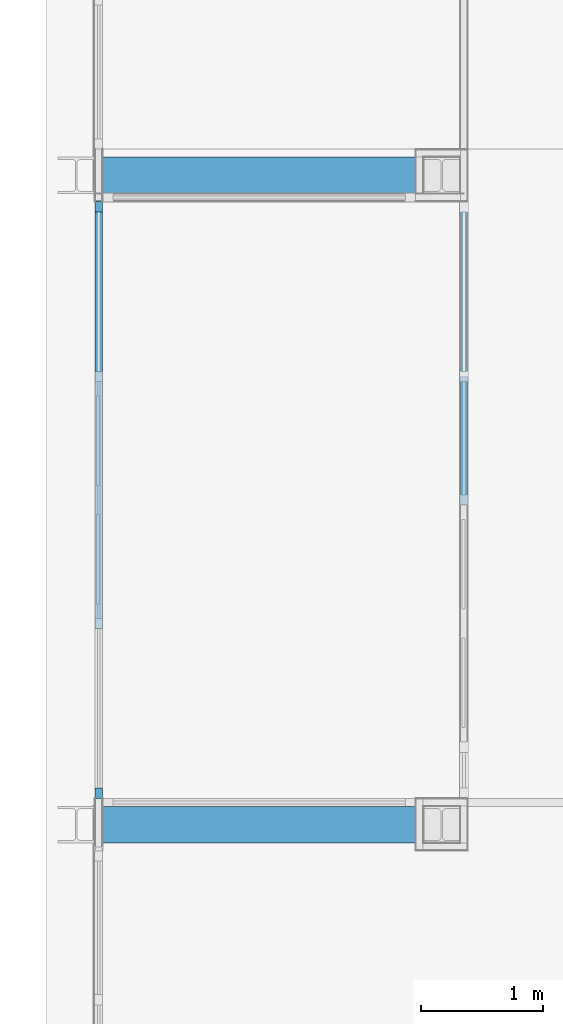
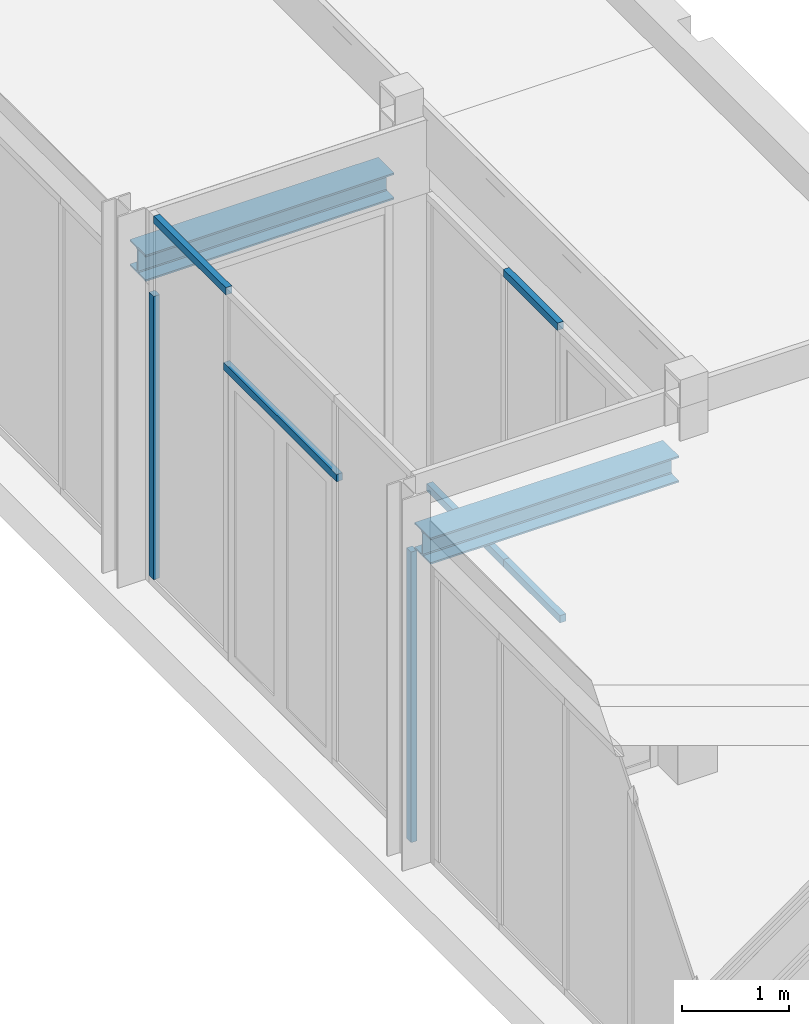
# One storey, part 21 of 99: 7 members, 2 beams, 2 elements without a shape of their own.
"""IFC2X3 building model written with IfcOpenShell, lengths in millimetres."""

from ifc_helpers import new_model, entity, si_unit, converted_unit, derived_unit, money_unit, direction, frame, origin_with_axes, place, context, subcontext, project, spatial, faceted_brep, material, type_object, element, aggregate, save


model = new_model("IFC2X3")

# Units and contexts
model_context = context("Model", 3, precision=0.01, world=origin_with_axes(), true_north=direction((0.0, 1.0)))
body_context = subcontext(model_context, "Body", "Model", "MODEL_VIEW")
ifc_project = project(units=[si_unit("LENGTHUNIT", "METRE", prefix="MILLI"), si_unit("AREAUNIT", "SQUARE_METRE"), si_unit("VOLUMEUNIT", "CUBIC_METRE"), converted_unit("PLANEANGLEUNIT", "DEGREE", entity("IfcPlaneAngleMeasure", 0.0174532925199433), si_unit("PLANEANGLEUNIT", "RADIAN"), dimensions=[0, 0, 0, 0, 0, 0, 0]), money_unit("EUR"), converted_unit("TIMEUNIT", "Year", entity("IfcTimeMeasure", 31557600.0), si_unit("TIMEUNIT", "SECOND"), dimensions=[0, 0, 1, 0, 0, 0, 0]), si_unit("MASSUNIT", "GRAM", prefix="KILO"), si_unit("THERMODYNAMICTEMPERATUREUNIT", "DEGREE_CELSIUS"), si_unit("LUMINOUSINTENSITYUNIT", "LUMEN"), si_unit("ENERGYUNIT", "JOULE", prefix="MEGA"), derived_unit("THERMALCONDUCTANCEUNIT", [(si_unit("POWERUNIT", "WATT"), 1), (si_unit("LENGTHUNIT", "METRE"), -1), (si_unit("THERMODYNAMICTEMPERATUREUNIT", "KELVIN"), -1)]), derived_unit("SPECIFICHEATCAPACITYUNIT", [(si_unit("ENERGYUNIT", "JOULE"), 1), (si_unit("MASSUNIT", "GRAM", prefix="KILO"), -1), (si_unit("THERMODYNAMICTEMPERATUREUNIT", "KELVIN"), -1)]), derived_unit("MASSDENSITYUNIT", [(si_unit("MASSUNIT", "GRAM", prefix="KILO"), 1), (si_unit("VOLUMEUNIT", "CUBIC_METRE"), -1)])], contexts=[model_context])

# Site, building, storey
site_placement = place(None, origin_with_axes())
site = spatial("IfcSite", under=ifc_project, at=site_placement, Name="Site", CompositionType="ELEMENT")
building_placement = place(site_placement, origin_with_axes())
building = spatial("IfcBuilding", under=site, at=building_placement, Name="Naam gebouw", CompositionType="ELEMENT")
storey_placement = place(building_placement, frame((0.0, 0.0, 7650.0), z_axis=(0.0, 0.0, 1.0), x_axis=(1.0, 0.0, 0.0)))
storey = spatial("IfcBuildingStorey", under=building, at=storey_placement, Name="2e verdieping N", CompositionType="ELEMENT", Elevation=7650.0)

# Beams
ifc_material_1 = material(Name="staal geanodiseerd RAL 7024")
beam_type = type_object("IfcBeamType", Name="NLRS_28_SF_LIB_balk HE_generiek_ISR:balk HE_gen_HEB300", PredefinedType="BEAM")
beam_1_placement = place(storey_placement, frame((17128.30000006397, 27955.91242634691, 50.00000000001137), z_axis=(0.0, 0.0, 1.0), x_axis=(0.0, 1.0, 0.0)))
element("IfcBeam", 1, at=beam_1_placement, inside=storey, type_object=beam_type, material=ifc_material_1, Name="NLRS_28_SF_LIB_balk HE_generiek_ISR:balk HE_gen_HEB300", ObjectType="BEAM", context=body_context, shape_type="Brep", body=[
    faceted_brep([(130.9999999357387, 2687.300000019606, -131.0000000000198), (130.9999999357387, 2683.669470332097, -131.0000000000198), (32.50000000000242, 2683.669470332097, -131.0000000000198), (32.50000000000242, 0.0, -130.9999999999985), (149.9999999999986, 0.0, -130.9999999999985), (149.9999999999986, 2687.300000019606, -130.9999999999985), (130.9999999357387, 2683.669470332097, -150.0000000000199), (130.9999999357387, 2687.300000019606, -150.0000000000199), (-32.50000000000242, 2683.669470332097, -131.0000000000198), (-150.0000000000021, 2683.669470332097, -150.0000000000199), (-150.0000000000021, 2683.669470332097, -131.0000000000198), (32.50000000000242, 2687.300000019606, -131.0000000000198), (19.0000000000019, 2687.300000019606, -127.3826859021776), (19.0000000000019, 0.0, -127.3826859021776), (149.9999999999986, 0.0, 131.0000000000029), (149.9999999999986, 0.0, 150.000000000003), (-150.0000000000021, 0.0, 150.000000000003), (-150.0000000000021, 0.0, 131.0000000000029), (-32.50000000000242, 0.0, 131.0000000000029), (-19.0000000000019, 0.0, 127.382685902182), (-9.11731409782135, 0.0, 117.5000000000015), (-5.500000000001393, 0.0, 104.0000000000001), (-5.500000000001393, 0.0, -103.9999999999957), (-9.11731409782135, 0.0, -117.499999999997), (-19.0000000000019, 0.0, -127.3826859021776), (-32.50000000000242, 0.0, -130.9999999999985), (-150.0000000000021, 0.0, -130.9999999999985), (-150.0000000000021, 0.0, -149.9999999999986), (149.9999999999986, 0.0, -149.9999999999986), (9.11731409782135, 0.0, -117.499999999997), (5.49999999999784, 0.0, -103.9999999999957), (5.49999999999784, 0.0, 104.0000000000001), (9.11731409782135, 0.0, 117.5000000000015), (19.0000000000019, 0.0, 127.382685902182), (32.50000000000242, 0.0, 131.0000000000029), (149.9999999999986, 2687.300000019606, -149.9999999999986), (-32.50000000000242, 2687.300000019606, -131.0000000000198), (-19.0000000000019, 2687.300000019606, 127.382685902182), (-32.50000000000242, 2687.300000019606, 130.9999999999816), (32.50000000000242, 2687.300000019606, 130.9999999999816), (19.0000000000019, 2687.300000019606, 127.382685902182), (9.11731409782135, 2687.300000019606, 117.5000000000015), (5.49999999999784, 2687.300000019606, 104.0000000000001), (5.49999999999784, 2687.300000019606, -103.9999999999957), (9.11731409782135, 2687.300000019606, -117.499999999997), (-19.0000000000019, 2687.300000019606, -127.3826859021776), (-9.11731409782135, 2687.300000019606, -117.499999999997), (-5.500000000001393, 2687.300000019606, -103.9999999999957), (-5.500000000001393, 2687.300000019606, 104.0000000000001), (-9.11731409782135, 2687.300000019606, 117.5000000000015), (149.9999999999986, 2687.300000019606, 131.0000000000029), (149.9999999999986, 2687.300000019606, 150.000000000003), (130.9999999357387, 2687.300000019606, 149.9999999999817), (130.9999999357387, 2683.669470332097, 149.9999999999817), (-150.0000000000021, 2683.669470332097, 149.9999999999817), (-150.0000000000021, 2683.669470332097, 130.9999999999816), (-32.50000000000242, 2683.669470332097, 130.9999999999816), (32.50000000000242, 2683.669470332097, 130.9999999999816), (130.9999999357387, 2683.669470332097, 130.9999999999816), (130.9999999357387, 2687.300000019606, 130.9999999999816)], [[[0, 1, 2, 3, 4, 5]], [[6, 1, 0, 7]], [[8, 2, 1, 6, 9, 10]], [[3, 2, 11, 12, 13]], [[14, 15, 16, 17, 18, 19, 20, 21, 22, 23, 24, 25, 26, 27, 28, 4, 3, 13, 29, 30, 31, 32, 33, 34]], [[4, 28, 35, 5]], [[35, 7, 0, 5]], [[9, 6, 7, 35, 28, 27]], [[36, 11, 2, 8]], [[26, 10, 9, 27]], [[25, 8, 10, 26]], [[37, 38, 39, 40, 41, 42, 43, 44, 12, 11, 36, 45, 46, 47, 48, 49]], [[29, 13, 12, 44]], [[15, 14, 50, 51]], [[52, 53, 54, 16, 15, 51]], [[16, 54, 55, 17]], [[17, 55, 56, 18]], [[18, 56, 38, 37, 19]], [[20, 19, 37, 49]], [[21, 20, 49, 48]], [[22, 21, 48, 47]], [[23, 22, 47, 46]], [[24, 23, 46, 45]], [[45, 36, 8, 25, 24]], [[30, 29, 44, 43]], [[31, 30, 43, 42]], [[32, 31, 42, 41]], [[33, 32, 41, 40]], [[40, 39, 57, 34, 33]], [[57, 58, 59, 50, 14, 34]], [[56, 57, 39, 38]], [[50, 59, 52, 51]], [[58, 53, 52, 59]], [[55, 54, 53, 58, 57, 56]]]),
])
beam_2_placement = place(storey_placement, frame((17128.30000003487, 33285.912426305, 50.00000000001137), z_axis=(0.0, 0.0, 1.0), x_axis=(0.0, 1.0, 0.0)))
element("IfcBeam", 2, at=beam_2_placement, inside=storey, type_object=beam_type, material=ifc_material_1, Name="NLRS_28_SF_LIB_balk HE_generiek_ISR:balk HE_gen_HEB300", ObjectType="BEAM", context=body_context, shape_type="Brep", body=[
    faceted_brep([(149.9999999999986, 0.0, -149.9999999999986), (149.9999999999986, 2683.669470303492, -150.0000000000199), (149.9999999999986, 2683.669470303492, -131.0000000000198), (149.9999999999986, 0.0, -130.9999999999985), (-130.9999999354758, 2687.299999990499, -150.0000000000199), (-130.9999999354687, 2683.669470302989, -150.0000000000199), (-149.9999999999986, 0.0, -149.9999999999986), (-149.9999999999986, 2687.299999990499, -149.9999999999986), (-32.50000000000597, 2683.669470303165, -131.0000000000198), (32.49999999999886, 2683.669470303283, -131.0000000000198), (-130.9999999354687, 2683.669470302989, -131.0000000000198), (32.49999999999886, 0.0, -130.9999999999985), (149.9999999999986, 0.0, 131.0000000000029), (149.9999999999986, 0.0, 150.000000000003), (-149.9999999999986, 0.0, 150.000000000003), (-149.9999999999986, 0.0, 131.0000000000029), (-32.50000000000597, 0.0, 131.0000000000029), (-18.99999999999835, 0.0, 127.382685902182), (-9.11731409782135, 0.0, 117.5000000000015), (-5.49999999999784, 0.0, 104.0000000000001), (-5.49999999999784, 0.0, -103.9999999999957), (-9.11731409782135, 0.0, -117.499999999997), (-18.99999999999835, 0.0, -127.3826859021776), (-32.50000000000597, 0.0, -130.9999999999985), (-149.9999999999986, 0.0, -130.9999999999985), (18.99999999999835, 0.0, -127.3826859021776), (9.11731409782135, 0.0, -117.499999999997), (5.49999999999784, 0.0, -103.9999999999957), (5.49999999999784, 0.0, 104.0000000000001), (9.11731409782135, 0.0, 117.5000000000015), (18.99999999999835, 0.0, 127.382685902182), (32.49999999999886, 0.0, 131.0000000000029), (-130.9999999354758, 2687.299999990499, -131.0000000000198), (-149.9999999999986, 2687.299999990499, -130.9999999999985), (-32.50000000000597, 2687.299999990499, -131.0000000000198), (32.49999999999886, 2687.299999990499, -131.0000000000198), (18.99999999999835, 2687.299999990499, -127.3826859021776), (149.9999999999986, 2683.669470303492, 130.9999999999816), (149.9999999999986, 2683.669470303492, 149.9999999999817), (-130.9999999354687, 2683.669470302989, 149.9999999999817), (-130.9999999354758, 2687.299999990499, 149.9999999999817), (-149.9999999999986, 2687.299999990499, 150.000000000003), (-149.9999999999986, 2687.299999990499, 131.0000000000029), (-130.9999999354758, 2687.299999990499, 130.9999999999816), (-130.9999999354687, 2683.669470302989, 130.9999999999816), (-32.50000000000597, 2683.669470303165, 130.9999999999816), (-32.50000000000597, 2687.299999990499, 130.9999999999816), (-18.99999999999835, 2687.299999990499, 127.382685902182), (-9.11731409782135, 2687.299999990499, 117.5000000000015), (-5.49999999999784, 2687.299999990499, 104.0000000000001), (-5.49999999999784, 2687.299999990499, -103.9999999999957), (-9.11731409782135, 2687.299999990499, -117.499999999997), (-18.99999999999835, 2687.299999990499, -127.3826859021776), (9.11731409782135, 2687.299999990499, -117.499999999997), (5.49999999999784, 2687.299999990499, -103.9999999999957), (5.49999999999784, 2687.299999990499, 104.0000000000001), (9.11731409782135, 2687.299999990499, 117.5000000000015), (18.99999999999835, 2687.299999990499, 127.382685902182), (32.49999999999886, 2687.299999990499, 130.9999999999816), (32.49999999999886, 2683.669470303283, 130.9999999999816)], [[[0, 1, 2, 3]], [[4, 5, 1, 0, 6, 7]], [[8, 9, 2, 1, 5, 10]], [[3, 2, 9, 11]], [[12, 13, 14, 15, 16, 17, 18, 19, 20, 21, 22, 23, 24, 6, 0, 3, 11, 25, 26, 27, 28, 29, 30, 31]], [[4, 32, 10, 5]], [[6, 24, 33, 7]], [[33, 32, 4, 7]], [[34, 35, 9, 8]], [[8, 10, 32, 33, 24, 23]], [[11, 9, 35, 36, 25]], [[12, 37, 38, 13]], [[38, 39, 40, 41, 14, 13]], [[15, 14, 41, 42]], [[43, 44, 45, 16, 15, 42]], [[16, 45, 46, 47, 17]], [[18, 17, 47, 48]], [[19, 18, 48, 49]], [[20, 19, 49, 50]], [[21, 20, 50, 51]], [[22, 21, 51, 52]], [[52, 34, 8, 23, 22]], [[26, 25, 36, 53]], [[27, 26, 53, 54]], [[28, 27, 54, 55]], [[29, 28, 55, 56]], [[30, 29, 56, 57]], [[57, 58, 59, 31, 30]], [[31, 59, 37, 12]], [[47, 46, 58, 57, 56, 55, 54, 53, 36, 35, 34, 52, 51, 50, 49, 48]], [[44, 39, 38, 37, 59, 45]], [[43, 40, 39, 44]], [[41, 40, 43, 42]], [[45, 59, 58, 46]]]),
])

# Curtain wall, members
curtain_wall_type = type_object("IfcCurtainWallType", Name="Curtain Wall:21_CW_alu kozijn 084x065", PredefinedType="NOTDEFINED")
curtain_wall_1_placement = place(storey_placement, frame((0.0, 0.0, -7650.0), z_axis=(0.0, 0.0, 1.0), x_axis=(1.0, 0.0, 0.0)))
curtain_wall_1 = element("IfcCurtainWall", 3, at=curtain_wall_1_placement, inside=storey, type_object=curtain_wall_type, Name="Curtain Wall:21_CW_alu kozijn 084x065", ObjectType="Curtain Wall:21_CW_alu kozijn 084x065")
ifc_material_2 = material(Name="RAL 7024 - Grafietgrijs")
member_type_1 = type_object("IfcMemberType", Name="Rectangular Mullion:31_alu_084x065 RAL 7024", PredefinedType="MULLION")
member_1_placement = place(curtain_wall_1_placement, frame((14474.50000003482, 32986.91242630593, 8390.00000000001), z_axis=(0.0, 0.0, 1.0), x_axis=(1.0, 0.0, 0.0)))
member_1 = element("IfcMember", 4, at=member_1_placement, type_object=member_type_1, material=ifc_material_2, Name="Rectangular Mullion:31_alu_084x065 RAL 7024", ObjectType="MULLION", context=body_context, shape_type="Brep", body=[
    faceted_brep([(32.50000000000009, -1351.0, 0.0), (32.50000000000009, -1351.0, -84.0), (32.49999999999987, 1.738609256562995e-10, -84.0), (32.49999999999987, 1.738609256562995e-10, 0.0), (-32.49999999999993, -1351.0, 0.0), (-32.49999999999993, -1351.0, -84.0), (-32.50000000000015, 1.738609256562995e-10, -84.0), (-32.50000000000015, 1.738609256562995e-10, 0.0)], [[[0, 1, 2, 3]], [[0, 4, 5, 1]], [[1, 5, 6, 2]], [[3, 2, 6, 7]], [[4, 0, 3, 7]], [[5, 4, 7, 6]]]),
])
member_type_2 = type_object("IfcMemberType", Name="Rectangular Mullion:31_alu_084x065 RAL 7024", PredefinedType="MULLION")
member_2_placement = place(curtain_wall_1_placement, frame((14474.50000003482, 33070.9124263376, 4234.000000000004), z_axis=(0.0, 0.0, 1.0), x_axis=(0.0, 1.0, 0.0)))
member_2 = element("IfcMember", 5, at=member_2_placement, type_object=member_type_2, material=ifc_material_2, Name="Rectangular Mullion:31_alu_084x065 RAL 7024", ObjectType="MULLION", context=body_context, shape_type="Brep", body=[
    faceted_brep([(0.0, -32.5, 3236.0), (-83.99999999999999, -32.50000000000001, 3236.0), (-83.99999999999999, -32.50000000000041, 3.97459842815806e-10), (0.0, -32.5000000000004, 3.97459842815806e-10), (0.0, 32.50000000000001, 3236.0), (-84.00000000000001, 32.5, 3236.0), (-84.00000000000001, 32.4999999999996, 3.97459842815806e-10), (0.0, 32.49999999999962, 3.97459842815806e-10)], [[[0, 1, 2, 3]], [[0, 4, 5, 1]], [[1, 5, 6, 2]], [[3, 2, 6, 7]], [[4, 0, 3, 7]], [[5, 4, 7, 6]]]),
])
member_type_3 = type_object("IfcMemberType", Name="Rectangular Mullion:31_alu_084x065 RAL 7024", PredefinedType="MULLION")
member_3_placement = place(curtain_wall_1_placement, frame((14474.50000003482, 28170.91242625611, 7469.999999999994), z_axis=(0.0, 0.0, 1.0), x_axis=(0.0, -1.0, 0.0)))
member_3 = element("IfcMember", 6, at=member_3_placement, type_object=member_type_3, material=ifc_material_2, Name="Rectangular Mullion:31_alu_084x065 RAL 7024", ObjectType="MULLION", context=body_context, shape_type="Brep", body=[
    faceted_brep([(0.0, 32.5, -3320.0), (-83.99999999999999, 32.50000000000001, -3320.0), (-83.99999999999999, 32.50000000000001, -3.97459842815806e-10), (0.0, 32.5, -3.97459842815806e-10), (0.0, -32.50000000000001, -3320.0), (-84.00000000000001, -32.5, -3320.0), (-84.00000000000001, -32.5, -3.97459842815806e-10), (0.0, -32.50000000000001, -3.97459842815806e-10)], [[[0, 1, 2, 3]], [[0, 4, 5, 1]], [[1, 5, 6, 2]], [[3, 2, 6, 7]], [[4, 0, 3, 7]], [[5, 4, 7, 6]]]),
])
member_type_4 = type_object("IfcMemberType", Name="Rectangular Mullion:31_alu_084x065 RAL 7024", PredefinedType="MULLION")
member_4_placement = place(curtain_wall_1_placement, frame((14474.50000000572, 31677.91242629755, 7469.999999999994), z_axis=(0.0, 0.0, 1.0), x_axis=(1.0, 0.0, 0.0)))
member_4 = element("IfcMember", 7, at=member_4_placement, type_object=member_type_4, material=ifc_material_2, Name="Rectangular Mullion:31_alu_084x065 RAL 7024", ObjectType="MULLION", context=body_context, shape_type="Brep", body=[
    faceted_brep([(32.50000000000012, -2114.0, 42.0), (32.50000000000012, -2114.0, -42.0), (32.49999999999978, -2.011724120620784e-10, -42.0), (32.49999999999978, -2.011724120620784e-10, 42.0), (-32.49999999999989, -2114.0, 42.0), (-32.49999999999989, -2114.0, -42.0), (-32.50000000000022, -2.011724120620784e-10, -42.0), (-32.50000000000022, -2.011724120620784e-10, 42.0)], [[[0, 1, 2, 3]], [[0, 4, 5, 1]], [[1, 5, 6, 2]], [[3, 2, 6, 7]], [[4, 0, 3, 7]], [[5, 4, 7, 6]]]),
])
aggregate(curtain_wall_1, [member_1, member_2, member_3, member_4])

curtain_wall_2_placement = place(storey_placement, frame((0.0, 0.0, -7650.0), z_axis=(0.0, 0.0, 1.0), x_axis=(1.0, 0.0, 0.0)))
curtain_wall_2 = element("IfcCurtainWall", 8, at=curtain_wall_2_placement, inside=storey, type_object=curtain_wall_type, Name="Curtain Wall:21_CW_alu kozijn 084x065", ObjectType="Curtain Wall:21_CW_alu kozijn 084x065")
member_type_5 = type_object("IfcMemberType", Name="Rectangular Mullion:31_alu_084x065 RAL 7024", PredefinedType="MULLION")
member_5_placement = place(curtain_wall_2_placement, frame((17473.50000004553, 30578.91242631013, 4150.0), z_axis=(0.0, 0.0, 1.0), x_axis=(1.0, 0.0, 0.0)))
member_5 = element("IfcMember", 9, at=member_5_placement, type_object=member_type_5, material=ifc_material_2, Name="Rectangular Mullion:31_alu_084x065 RAL 7024", ObjectType="MULLION", context=body_context, shape_type="Brep", body=[
    faceted_brep([(32.49999999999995, 1057.0, 0.0), (32.49999999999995, 1057.0, 84.0), (32.50000000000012, 1.030286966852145e-10, 84.0), (32.50000000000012, 1.030286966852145e-10, 0.0), (-32.50000000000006, 1057.0, 0.0), (-32.50000000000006, 1057.0, 84.0), (-32.4999999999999, 1.030286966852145e-10, 84.0), (-32.4999999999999, 1.030286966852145e-10, 0.0)], [[[0, 1, 2, 3]], [[0, 4, 5, 1]], [[1, 5, 6, 2]], [[3, 2, 6, 7]], [[4, 0, 3, 7]], [[5, 4, 7, 6]]]),
])
member_type_6 = type_object("IfcMemberType", Name="Rectangular Mullion:31_alu_084x065 RAL 7024", PredefinedType="MULLION")
member_6_placement = place(curtain_wall_2_placement, frame((17473.50000001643, 31635.91242633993, 7550.000000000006), z_axis=(0.0, 0.0, 1.0), x_axis=(1.0, 0.0, 0.0)))
member_6 = element("IfcMember", 10, at=member_6_placement, type_object=member_type_6, material=ifc_material_2, Name="Rectangular Mullion:31_alu_084x065 RAL 7024", ObjectType="MULLION", context=body_context, shape_type="Brep", body=[
    faceted_brep([(32.50000000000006, -1015.0, 0.0), (32.50000000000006, -1015.0, -84.0), (32.4999999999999, -1.028066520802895e-10, -84.0), (32.4999999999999, -1.028066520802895e-10, 0.0), (-32.49999999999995, -1015.0, 0.0), (-32.49999999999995, -1015.0, -84.0), (-32.50000000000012, -1.028066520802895e-10, -84.0), (-32.50000000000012, -1.028066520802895e-10, 0.0)], [[[0, 1, 2, 3]], [[0, 4, 5, 1]], [[1, 5, 6, 2]], [[3, 2, 6, 7]], [[4, 0, 3, 7]], [[5, 4, 7, 6]]]),
])
member_type_7 = type_object("IfcMemberType", Name="Rectangular Mullion:31_alu_084x065 RAL 7024", PredefinedType="MULLION")
member_7_placement = place(curtain_wall_2_placement, frame((17473.50000001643, 31635.91242633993, 4150.0), z_axis=(0.0, 0.0, 1.0), x_axis=(1.0, 0.0, 0.0)))
member_7 = element("IfcMember", 11, at=member_7_placement, type_object=member_type_7, material=ifc_material_2, Name="Rectangular Mullion:31_alu_084x065 RAL 7024", ObjectType="MULLION", context=body_context, shape_type="Brep", body=[
    faceted_brep([(32.49999999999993, 1435.0, 0.0), (32.49999999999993, 1435.0, 84.0), (32.50000000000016, -1.805222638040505e-10, 84.0), (32.50000000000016, -1.805222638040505e-10, 0.0), (-32.50000000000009, 1435.0, 0.0), (-32.50000000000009, 1435.0, 84.0), (-32.49999999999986, -1.805222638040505e-10, 84.0), (-32.49999999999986, -1.805222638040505e-10, 0.0)], [[[0, 1, 2, 3]], [[0, 4, 5, 1]], [[1, 5, 6, 2]], [[3, 2, 6, 7]], [[4, 0, 3, 7]], [[5, 4, 7, 6]]]),
])
aggregate(curtain_wall_2, [member_5, member_6, member_7])

save(model, "model.ifc")
